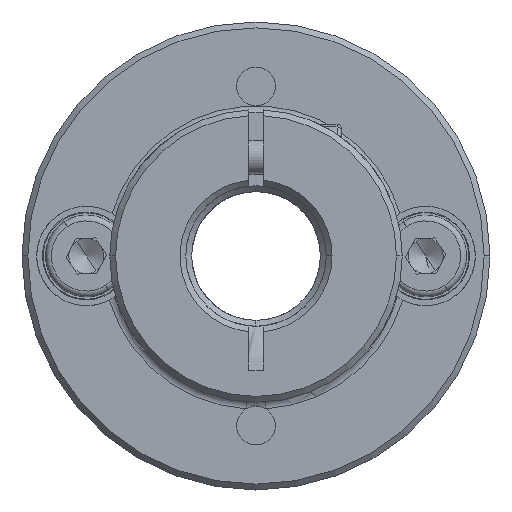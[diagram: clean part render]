
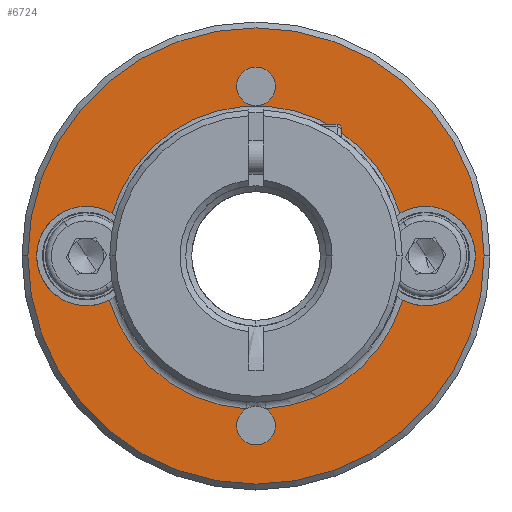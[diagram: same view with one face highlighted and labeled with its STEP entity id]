
A CAD part, front view. The second image highlights one B-rep face of the part: STEP entity #6724.
In plain terms, the highlighted planar face has unit normal (0, -1, 0).
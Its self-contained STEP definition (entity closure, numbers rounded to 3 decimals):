
#183 = DIRECTION ( 'NONE',  ( 1., 0., 0. ) ) ;
#227 = ORIENTED_EDGE ( 'NONE', *, *, #4521, .T. ) ;
#544 = ORIENTED_EDGE ( 'NONE', *, *, #6188, .T. ) ;
#710 = DIRECTION ( 'NONE',  ( 1., 0., 0. ) ) ;
#764 = AXIS2_PLACEMENT_3D ( 'NONE', #6227, #4410, #9185 ) ;
#1012 = EDGE_CURVE ( 'NONE', #1278, #2721, #11169, .T. ) ;
#1065 = VERTEX_POINT ( 'NONE', #9404 ) ;
#1104 = CARTESIAN_POINT ( 'NONE',  ( -12.005, -13.63, 54.5 ) ) ;
#1234 = ORIENTED_EDGE ( 'NONE', *, *, #12253, .T. ) ;
#1278 = VERTEX_POINT ( 'NONE', #6998 ) ;
#1414 = DIRECTION ( 'NONE',  ( 0., 1., 0. ) ) ;
#1546 = AXIS2_PLACEMENT_3D ( 'NONE', #1784, #2824, #710 ) ;
#1625 = DIRECTION ( 'NONE',  ( 0., 1., 0. ) ) ;
#1633 = AXIS2_PLACEMENT_3D ( 'NONE', #10127, #8088, #11141 ) ;
#1784 = CARTESIAN_POINT ( 'NONE',  ( -12.005, -13.63, 40. ) ) ;
#1830 = AXIS2_PLACEMENT_3D ( 'NONE', #6367, #7345, #3456 ) ;
#1886 = DIRECTION ( 'NONE',  ( 1., 0., 0. ) ) ;
#2035 = AXIS2_PLACEMENT_3D ( 'NONE', #9923, #10868, #6999 ) ;
#2064 = AXIS2_PLACEMENT_3D ( 'NONE', #9352, #10356, #11124 ) ;
#2215 = VERTEX_POINT ( 'NONE', #6463 ) ;
#2378 = CARTESIAN_POINT ( 'NONE',  ( -26.505, -13.63, 40. ) ) ;
#2491 = VERTEX_POINT ( 'NONE', #11014 ) ;
#2605 = AXIS2_PLACEMENT_3D ( 'NONE', #11565, #8601, #10598 ) ;
#2628 = DIRECTION ( 'NONE',  ( 1., 0., 0. ) ) ;
#2668 = CIRCLE ( 'NONE', #2064, 19.5 ) ;
#2721 = VERTEX_POINT ( 'NONE', #5492 ) ;
#2805 = CIRCLE ( 'NONE', #10783, 1.65 ) ;
#2824 = DIRECTION ( 'NONE',  ( 0., -1., 0. ) ) ;
#2840 = VERTEX_POINT ( 'NONE', #11870 ) ;
#3090 = DIRECTION ( 'NONE',  ( 0., 1., 0. ) ) ;
#3162 = VERTEX_POINT ( 'NONE', #4608 ) ;
#3456 = DIRECTION ( 'NONE',  ( 1., 0., 0. ) ) ;
#3496 = EDGE_LOOP ( 'NONE', ( #227, #7151 ) ) ;
#3502 = CARTESIAN_POINT ( 'NONE',  ( 0.54, -13.63, 36.226 ) ) ;
#3527 = VERTEX_POINT ( 'NONE', #3502 ) ;
#3628 = EDGE_CURVE ( 'NONE', #2215, #1065, #4550, .T. ) ;
#3903 = AXIS2_PLACEMENT_3D ( 'NONE', #1104, #3090, #183 ) ;
#4276 = CIRCLE ( 'NONE', #7575, 4.25 ) ;
#4410 = DIRECTION ( 'NONE',  ( 0., 1., 0. ) ) ;
#4450 = ORIENTED_EDGE ( 'NONE', *, *, #1012, .T. ) ;
#4521 = EDGE_CURVE ( 'NONE', #1065, #2215, #2668, .T. ) ;
#4550 = CIRCLE ( 'NONE', #1546, 19.5 ) ;
#4608 = CARTESIAN_POINT ( 'NONE',  ( -30.755, -13.63, 40. ) ) ;
#4780 = DIRECTION ( 'NONE',  ( 0., 1., 0. ) ) ;
#5064 = DIRECTION ( 'NONE',  ( 1., 0., 0. ) ) ;
#5181 = CARTESIAN_POINT ( 'NONE',  ( -10.355, -13.63, 54.5 ) ) ;
#5235 = CIRCLE ( 'NONE', #3903, 1.65 ) ;
#5292 = EDGE_LOOP ( 'NONE', ( #1234, #5838 ) ) ;
#5395 = DIRECTION ( 'NONE',  ( 0., 1., 0. ) ) ;
#5476 = DIRECTION ( 'NONE',  ( 0., 1., 0. ) ) ;
#5492 = CARTESIAN_POINT ( 'NONE',  ( 0.298, -13.63, 43.638 ) ) ;
#5804 = CARTESIAN_POINT ( 'NONE',  ( 2.495, -13.63, 40. ) ) ;
#5838 = ORIENTED_EDGE ( 'NONE', *, *, #6914, .T. ) ;
#5859 = CARTESIAN_POINT ( 'NONE',  ( -13.655, -13.63, 25.5 ) ) ;
#5883 = AXIS2_PLACEMENT_3D ( 'NONE', #9180, #1414, #12245 ) ;
#6073 = CARTESIAN_POINT ( 'NONE',  ( -12.005, -13.63, 40. ) ) ;
#6188 = EDGE_CURVE ( 'NONE', #2721, #2491, #11807, .T. ) ;
#6227 = CARTESIAN_POINT ( 'NONE',  ( -12.005, -13.63, 25.5 ) ) ;
#6282 = CARTESIAN_POINT ( 'NONE',  ( -12.834, -13.63, 26.926 ) ) ;
#6353 = ORIENTED_EDGE ( 'NONE', *, *, #9602, .T. ) ;
#6367 = CARTESIAN_POINT ( 'NONE',  ( -12.005, -13.63, 54.5 ) ) ;
#6447 = DIRECTION ( 'NONE',  ( 1., 0., 0. ) ) ;
#6463 = CARTESIAN_POINT ( 'NONE',  ( 7.495, -13.63, 40. ) ) ;
#6575 = CARTESIAN_POINT ( 'NONE',  ( -26.505, -13.63, 40. ) ) ;
#6724 = ADVANCED_FACE ( 'NONE', ( #11929, #9649, #7491 ), #10806, .T. ) ;
#6914 = EDGE_CURVE ( 'NONE', #12386, #12780, #10730, .T. ) ;
#6931 = EDGE_CURVE ( 'NONE', #3162, #1278, #4276, .T. ) ;
#6998 = CARTESIAN_POINT ( 'NONE',  ( -24.307, -13.63, 43.638 ) ) ;
#6999 = DIRECTION ( 'NONE',  ( 1., 0., 0. ) ) ;
#7151 = ORIENTED_EDGE ( 'NONE', *, *, #3628, .T. ) ;
#7169 = AXIS2_PLACEMENT_3D ( 'NONE', #6073, #8031, #5064 ) ;
#7225 = EDGE_CURVE ( 'NONE', #3527, #2840, #11167, .T. ) ;
#7345 = DIRECTION ( 'NONE',  ( 0., 1., 0. ) ) ;
#7470 = VERTEX_POINT ( 'NONE', #7848 ) ;
#7480 = CIRCLE ( 'NONE', #2605, 4.25 ) ;
#7491 = FACE_BOUND ( 'NONE', #5292, .T. ) ;
#7575 = AXIS2_PLACEMENT_3D ( 'NONE', #2378, #5395, #6447 ) ;
#7667 = DIRECTION ( 'NONE',  ( 1., 0., 0. ) ) ;
#7848 = CARTESIAN_POINT ( 'NONE',  ( -24.55, -13.63, 36.226 ) ) ;
#7963 = AXIS2_PLACEMENT_3D ( 'NONE', #5804, #8692, #1886 ) ;
#8031 = DIRECTION ( 'NONE',  ( 0., -1., 0. ) ) ;
#8036 = ORIENTED_EDGE ( 'NONE', *, *, #10919, .T. ) ;
#8088 = DIRECTION ( 'NONE',  ( 0., 1., 0. ) ) ;
#8132 = CIRCLE ( 'NONE', #764, 1.65 ) ;
#8177 = VERTEX_POINT ( 'NONE', #6282 ) ;
#8326 = EDGE_CURVE ( 'NONE', #2491, #3527, #7480, .T. ) ;
#8357 = AXIS2_PLACEMENT_3D ( 'NONE', #6575, #5476, #9395 ) ;
#8601 = DIRECTION ( 'NONE',  ( 0., 1., 0. ) ) ;
#8671 = VERTEX_POINT ( 'NONE', #5859 ) ;
#8692 = DIRECTION ( 'NONE',  ( 0., 1., 0. ) ) ;
#9180 = CARTESIAN_POINT ( 'NONE',  ( -12.005, -13.63, 40. ) ) ;
#9185 = DIRECTION ( 'NONE',  ( 1., 0., 0. ) ) ;
#9234 = ORIENTED_EDGE ( 'NONE', *, *, #11570, .T. ) ;
#9262 = CIRCLE ( 'NONE', #8357, 4.25 ) ;
#9352 = CARTESIAN_POINT ( 'NONE',  ( -12.005, -13.63, 40. ) ) ;
#9395 = DIRECTION ( 'NONE',  ( 1., 0., 0. ) ) ;
#9404 = CARTESIAN_POINT ( 'NONE',  ( -31.505, -13.63, 40. ) ) ;
#9561 = CARTESIAN_POINT ( 'NONE',  ( -12.005, -13.63, 25.5 ) ) ;
#9602 = EDGE_CURVE ( 'NONE', #8177, #7470, #11872, .T. ) ;
#9649 = FACE_BOUND ( 'NONE', #11328, .T. ) ;
#9785 = EDGE_CURVE ( 'NONE', #7470, #3162, #9262, .T. ) ;
#9923 = CARTESIAN_POINT ( 'NONE',  ( -12.005, -13.63, 40. ) ) ;
#9988 = ORIENTED_EDGE ( 'NONE', *, *, #7225, .T. ) ;
#10127 = CARTESIAN_POINT ( 'NONE',  ( -12.005, -13.63, 25.5 ) ) ;
#10356 = DIRECTION ( 'NONE',  ( 0., -1., 0. ) ) ;
#10580 = ORIENTED_EDGE ( 'NONE', *, *, #9785, .T. ) ;
#10598 = DIRECTION ( 'NONE',  ( 1., 0., 0. ) ) ;
#10730 = CIRCLE ( 'NONE', #1830, 1.65 ) ;
#10783 = AXIS2_PLACEMENT_3D ( 'NONE', #9561, #4780, #7667 ) ;
#10806 = PLANE ( 'NONE',  #7169 ) ;
#10868 = DIRECTION ( 'NONE',  ( 0., 1., 0. ) ) ;
#10901 = CARTESIAN_POINT ( 'NONE',  ( -13.655, -13.63, 54.5 ) ) ;
#10919 = EDGE_CURVE ( 'NONE', #12237, #8671, #11240, .T. ) ;
#11014 = CARTESIAN_POINT ( 'NONE',  ( 6.745, -13.63, 40. ) ) ;
#11124 = DIRECTION ( 'NONE',  ( 1., 0., 0. ) ) ;
#11141 = DIRECTION ( 'NONE',  ( 1., 0., 0. ) ) ;
#11167 = CIRCLE ( 'NONE', #11938, 13.1 ) ;
#11169 = CIRCLE ( 'NONE', #5883, 12.829 ) ;
#11240 = CIRCLE ( 'NONE', #1633, 1.65 ) ;
#11328 = EDGE_LOOP ( 'NONE', ( #10580, #11856, #4450, #544, #11508, #9988, #9234, #8036, #12560, #6353 ) ) ;
#11508 = ORIENTED_EDGE ( 'NONE', *, *, #8326, .T. ) ;
#11565 = CARTESIAN_POINT ( 'NONE',  ( 2.495, -13.63, 40. ) ) ;
#11570 = EDGE_CURVE ( 'NONE', #2840, #12237, #2805, .T. ) ;
#11807 = CIRCLE ( 'NONE', #7963, 4.25 ) ;
#11856 = ORIENTED_EDGE ( 'NONE', *, *, #6931, .T. ) ;
#11870 = CARTESIAN_POINT ( 'NONE',  ( -11.175, -13.63, 26.926 ) ) ;
#11872 = CIRCLE ( 'NONE', #2035, 13.1 ) ;
#11929 = FACE_OUTER_BOUND ( 'NONE', #3496, .T. ) ;
#11938 = AXIS2_PLACEMENT_3D ( 'NONE', #12409, #1625, #2628 ) ;
#12237 = VERTEX_POINT ( 'NONE', #12577 ) ;
#12245 = DIRECTION ( 'NONE',  ( 1., 0., 0. ) ) ;
#12253 = EDGE_CURVE ( 'NONE', #12780, #12386, #5235, .T. ) ;
#12386 = VERTEX_POINT ( 'NONE', #5181 ) ;
#12407 = EDGE_CURVE ( 'NONE', #8671, #8177, #8132, .T. ) ;
#12409 = CARTESIAN_POINT ( 'NONE',  ( -12.005, -13.63, 40. ) ) ;
#12560 = ORIENTED_EDGE ( 'NONE', *, *, #12407, .T. ) ;
#12577 = CARTESIAN_POINT ( 'NONE',  ( -10.355, -13.63, 25.5 ) ) ;
#12780 = VERTEX_POINT ( 'NONE', #10901 ) ;
